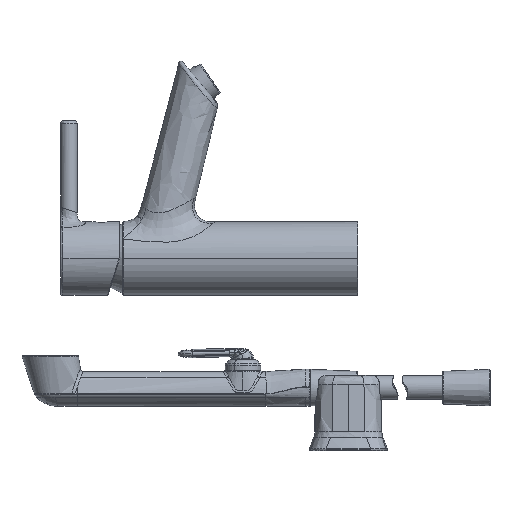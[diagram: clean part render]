
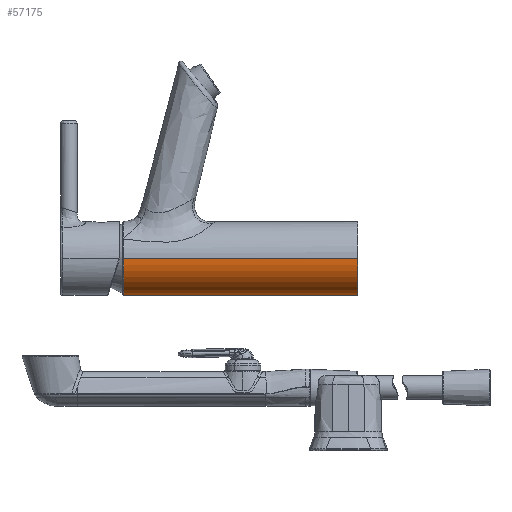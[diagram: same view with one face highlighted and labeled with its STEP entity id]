
A CAD part, left-side view. The second image highlights one B-rep face of the part: STEP entity #57175.
In plain terms, the highlighted cylindrical face has radius 23.25 mm (diameter 46.5 mm), a partial arc.
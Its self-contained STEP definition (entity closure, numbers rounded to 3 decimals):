
#1386 = AXIS2_PLACEMENT_3D ( 'NONE', #37553, #26354, #3223 ) ;
#3223 = DIRECTION ( 'NONE',  ( 1., 0., 0. ) ) ;
#4588 = CIRCLE ( 'NONE', #23260, 23.25 ) ;
#4738 = DIRECTION ( 'NONE',  ( 0., -1., 0. ) ) ;
#5962 = LINE ( 'NONE', #21741, #45977 ) ;
#16186 = CARTESIAN_POINT ( 'NONE',  ( 0., 143.5, 0. ) ) ;
#16556 = VERTEX_POINT ( 'NONE', #46689 ) ;
#18045 = DIRECTION ( 'NONE',  ( 0., 1., 0. ) ) ;
#18426 = ORIENTED_EDGE ( 'NONE', *, *, #52869, .T. ) ;
#18711 = CARTESIAN_POINT ( 'NONE',  ( 0., -5., 0. ) ) ;
#21741 = CARTESIAN_POINT ( 'NONE',  ( -23.25, 72., 0. ) ) ;
#23260 = AXIS2_PLACEMENT_3D ( 'NONE', #18711, #57666, #63263 ) ;
#23551 = CARTESIAN_POINT ( 'NONE',  ( 23.25, -5., 0. ) ) ;
#25297 = EDGE_LOOP ( 'NONE', ( #18426, #59117, #33594, #38622 ) ) ;
#26354 = DIRECTION ( 'NONE',  ( 0., 1., 0. ) ) ;
#31503 = CARTESIAN_POINT ( 'NONE',  ( 23.25, 72., 0. ) ) ;
#32457 = CARTESIAN_POINT ( 'NONE',  ( -23.25, 143.5, 0. ) ) ;
#33594 = ORIENTED_EDGE ( 'NONE', *, *, #35716, .T. ) ;
#35716 = EDGE_CURVE ( 'NONE', #68188, #16556, #36162, .T. ) ;
#36162 = CIRCLE ( 'NONE', #67832, 23.25 ) ;
#37553 = CARTESIAN_POINT ( 'NONE',  ( 0., 72., 0. ) ) ;
#38622 = ORIENTED_EDGE ( 'NONE', *, *, #68222, .F. ) ;
#39353 = FACE_OUTER_BOUND ( 'NONE', #25297, .T. ) ;
#39899 = VECTOR ( 'NONE', #49000, 1000. ) ;
#45977 = VECTOR ( 'NONE', #18045, 1000. ) ;
#46689 = CARTESIAN_POINT ( 'NONE',  ( 23.25, 143.5, 0. ) ) ;
#49000 = DIRECTION ( 'NONE',  ( 0., 1., 0. ) ) ;
#51219 = LINE ( 'NONE', #31503, #39899 ) ;
#52869 = EDGE_CURVE ( 'NONE', #56748, #57895, #4588, .T. ) ;
#56748 = VERTEX_POINT ( 'NONE', #23551 ) ;
#57175 = ADVANCED_FACE ( 'NONE', ( #39353 ), #62002, .T. ) ;
#57666 = DIRECTION ( 'NONE',  ( 0., 1., 0. ) ) ;
#57895 = VERTEX_POINT ( 'NONE', #64294 ) ;
#59117 = ORIENTED_EDGE ( 'NONE', *, *, #68648, .T. ) ;
#60250 = DIRECTION ( 'NONE',  ( 1., 0., 0. ) ) ;
#62002 = CYLINDRICAL_SURFACE ( 'NONE', #1386, 23.25 ) ;
#63263 = DIRECTION ( 'NONE',  ( 1., 0., 0. ) ) ;
#64294 = CARTESIAN_POINT ( 'NONE',  ( -23.25, -5., 0. ) ) ;
#67832 = AXIS2_PLACEMENT_3D ( 'NONE', #16186, #4738, #60250 ) ;
#68188 = VERTEX_POINT ( 'NONE', #32457 ) ;
#68222 = EDGE_CURVE ( 'NONE', #56748, #16556, #51219, .T. ) ;
#68648 = EDGE_CURVE ( 'NONE', #57895, #68188, #5962, .T. ) ;
